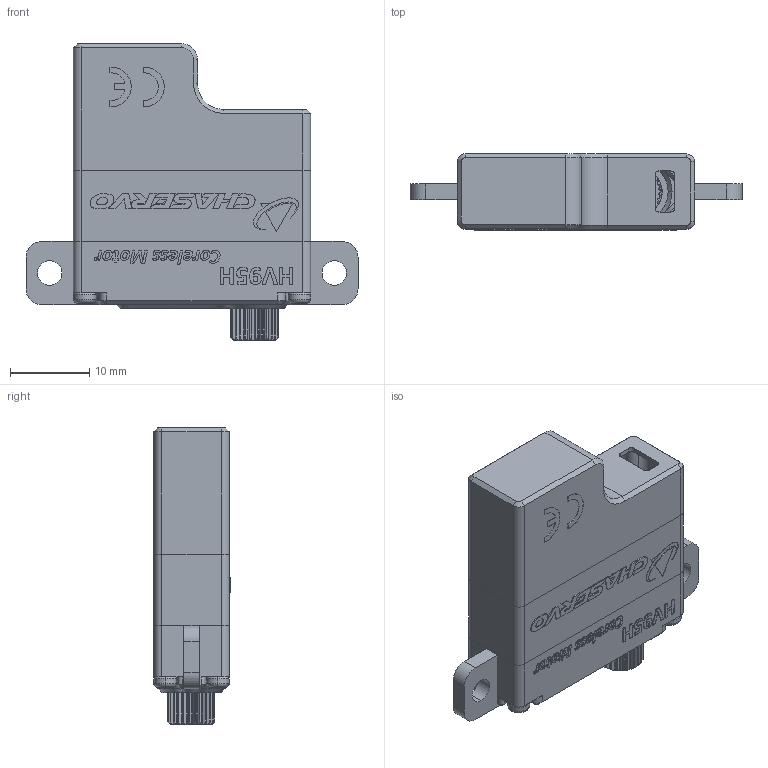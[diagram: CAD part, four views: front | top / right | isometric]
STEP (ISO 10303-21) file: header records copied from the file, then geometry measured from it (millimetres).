
FILE_DESCRIPTION (( 'STEP AP214' ), '1' );
FILE_NAME ('HV95H_DM_20230526.STEP', '2023-05-26T09:30:27', ( '' ), ( '' ), 'SwSTEP 2.0', 'SolidWorks 2016', '' );
FILE_SCHEMA (( 'AUTOMOTIVE_DESIGN' ));
Length unit declared in the file: millimetre
Products named in the file (1): HV95H_DM_20230526
Bounding box: 42 x 9.62 x 37.5 mm (x, y, z)
Surface area: 3987.9 mm2 (no closed solid volume)
Topology: 0 solids, 40 shells, 812 faces, 2425 edges, 1647 vertices
Faces by surface type: plane 333, bspline 273, cylinder 137, cone 53, torus 16
Entity records: 43852 total; most frequent: CARTESIAN_POINT 15548, ORIENTED_EDGE 4071, DIRECTION 3185, EDGE_CURVE 2421, VERTEX_POINT 1647, LINE 1357, VECTOR 1357, AXIS2_PLACEMENT_3D 914
